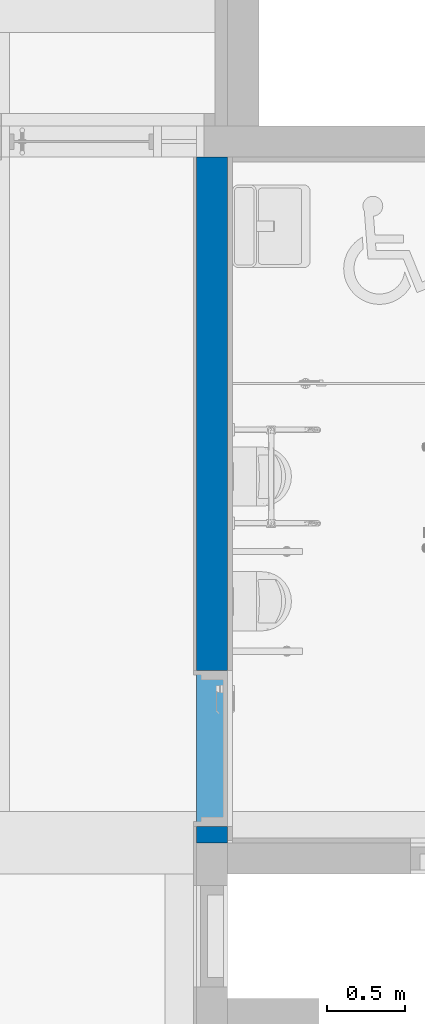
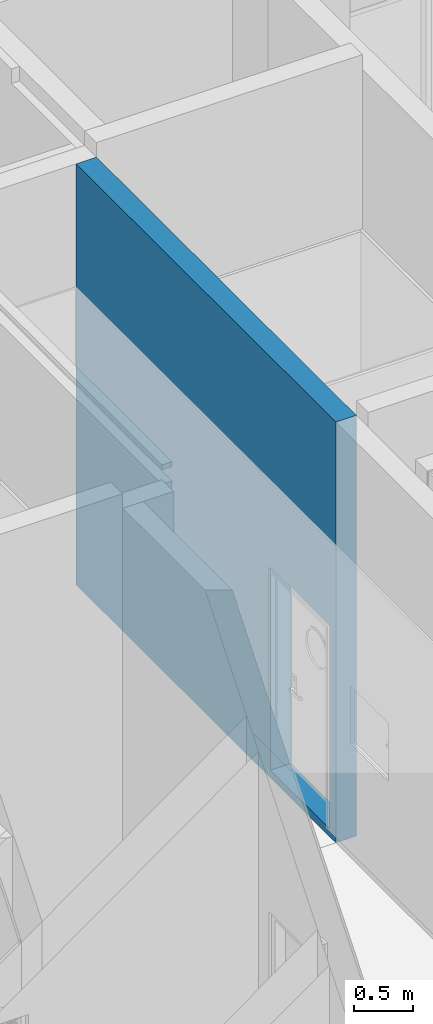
# One storey, part 60 of 74: 1 wall, 1 opening.
"""IFC2X3 building model written with IfcOpenShell, lengths in millimetres."""

from ifc_helpers import new_model, entity, si_unit, converted_unit, derived_unit, direction, frame, frame_2d, origin, place, context, subcontext, project, spatial, polyline, rectangle, extrude, clip, bounded_halfspace, material, layer, layer_set, layer_usage, type_object, element, save


model = new_model("IFC2X3")

# Units and contexts
model_context = context("Model", 3, precision=0.01, world=origin(), true_north=direction((6.123031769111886e-17, 1.0)))
body_context = subcontext(model_context, "Body", "Model", "MODEL_VIEW")
ifc_project = project(units=[si_unit("LENGTHUNIT", "METRE", prefix="MILLI"), si_unit("AREAUNIT", "SQUARE_METRE"), si_unit("VOLUMEUNIT", "CUBIC_METRE"), converted_unit("PLANEANGLEUNIT", "DEGREE", entity("IfcRatioMeasure", 0.017453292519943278), si_unit("PLANEANGLEUNIT", "RADIAN"), dimensions=[0, 0, 0, 0, 0, 0, 0]), si_unit("MASSUNIT", "GRAM", prefix="KILO"), derived_unit("MASSDENSITYUNIT", [(si_unit("MASSUNIT", "GRAM", prefix="KILO"), 1), (si_unit("LENGTHUNIT", "METRE"), -3)]), derived_unit("MOMENTOFINERTIAUNIT", [(si_unit("LENGTHUNIT", "METRE"), 4)]), si_unit("TIMEUNIT", "SECOND"), si_unit("FREQUENCYUNIT", "HERTZ"), si_unit("THERMODYNAMICTEMPERATUREUNIT", "DEGREE_CELSIUS"), derived_unit("THERMALTRANSMITTANCEUNIT", [(si_unit("MASSUNIT", "GRAM", prefix="KILO"), 1), (si_unit("THERMODYNAMICTEMPERATUREUNIT", "KELVIN"), -1), (si_unit("TIMEUNIT", "SECOND"), -3)]), derived_unit("VOLUMETRICFLOWRATEUNIT", [(si_unit("LENGTHUNIT", "METRE"), 3), (si_unit("TIMEUNIT", "SECOND"), -1)]), derived_unit("MASSFLOWRATEUNIT", [(si_unit("MASSUNIT", "GRAM", prefix="KILO"), 1), (si_unit("TIMEUNIT", "SECOND"), -1)]), derived_unit("ROTATIONALFREQUENCYUNIT", [(si_unit("TIMEUNIT", "SECOND"), -1)]), si_unit("ELECTRICCURRENTUNIT", "AMPERE"), si_unit("ELECTRICVOLTAGEUNIT", "VOLT"), si_unit("POWERUNIT", "WATT"), si_unit("FORCEUNIT", "NEWTON", prefix="KILO"), si_unit("ILLUMINANCEUNIT", "LUX"), si_unit("LUMINOUSFLUXUNIT", "LUMEN"), si_unit("LUMINOUSINTENSITYUNIT", "CANDELA"), derived_unit("USERDEFINED", [(si_unit("MASSUNIT", "GRAM", prefix="KILO"), -1), (si_unit("LENGTHUNIT", "METRE"), -2), (si_unit("TIMEUNIT", "SECOND"), 3), (si_unit("LUMINOUSFLUXUNIT", "LUMEN"), 1)]), derived_unit("SOUNDPOWERUNIT", [(si_unit("MASSUNIT", "GRAM", prefix="KILO"), 1), (si_unit("LENGTHUNIT", "METRE"), 2), (si_unit("TIMEUNIT", "SECOND"), -3)]), derived_unit("SOUNDPRESSUREUNIT", [(si_unit("MASSUNIT", "GRAM", prefix="KILO"), 1), (si_unit("LENGTHUNIT", "METRE"), -1), (si_unit("TIMEUNIT", "SECOND"), -2)]), derived_unit("LINEARVELOCITYUNIT", [(si_unit("LENGTHUNIT", "METRE"), 1), (si_unit("TIMEUNIT", "SECOND"), -1)]), si_unit("PRESSUREUNIT", "PASCAL"), derived_unit("USERDEFINED", [(si_unit("LENGTHUNIT", "METRE"), -2), (si_unit("MASSUNIT", "GRAM", prefix="KILO"), 1), (si_unit("TIMEUNIT", "SECOND"), -2)]), derived_unit("LINEARFORCEUNIT", [(si_unit("MASSUNIT", "GRAM", prefix="KILO"), 1), (si_unit("LENGTHUNIT", "METRE"), 1), (si_unit("TIMEUNIT", "SECOND"), -2), (si_unit("LENGTHUNIT", "METRE"), -1)]), derived_unit("PLANARFORCEUNIT", [(si_unit("MASSUNIT", "GRAM", prefix="KILO"), 1), (si_unit("LENGTHUNIT", "METRE"), 1), (si_unit("TIMEUNIT", "SECOND"), -2), (si_unit("LENGTHUNIT", "METRE"), -2)])], contexts=[model_context])

# Site, building, storey
site_placement = place(None, frame((-14167.972527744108, -657.2125860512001, 0.0)))
site = spatial("IfcSite", under=ifc_project, at=site_placement, Name="Default", CompositionType="ELEMENT")
building_placement = place(site_placement, origin())
building = spatial("IfcBuilding", under=site, at=building_placement, Name="Sample Building", CompositionType="ELEMENT")
storey_placement = place(building_placement, frame((0.0, 0.0, 4800.0)))
storey = spatial("IfcBuildingStorey", under=building, at=storey_placement, Name="지상 2층", CompositionType="ELEMENT", Elevation=4800.000000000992)

# Wall, opening
ifc_material = material(Name="KBIMS-콘크리트")
ifc_layer = layer(ifc_material, 200.0)
ifc_layer_set = layer_set([ifc_layer], Name="기본 벽:WA111-철근콘크리트구조 벽 200mm_CW1")
ifc_layer_usage = layer_usage(ifc_layer_set, "AXIS2", "NEGATIVE", 100.0)
wall_type = type_object("IfcWallType", Name="기본 벽:WA111-철근콘크리트구조 벽 200mm_CW1", PredefinedType="STANDARD", material=ifc_layer_set)
wall_placement = place(storey_placement, frame((38067.96379814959, 22457.212298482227, -1.9340006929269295e-09), z_axis=(0.0, 0.0, 1.0), x_axis=(0.0, 1.0, 0.0)))
wall = element("IfcWallStandardCase", 1, at=wall_placement, inside=storey, type_object=wall_type, material=ifc_layer_usage, Name="기본 벽:WA111-철근콘크리트구조 벽 200mm_CW1", ObjectType="기본 벽:WA111-철근콘크리트구조 벽 200mm_CW1", context=body_context, shape_type="Clipping", body=[
    clip(extrude(rectangle(XDim=4399.999996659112, YDim=199.99999999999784, at=frame_2d((2199.999998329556, 0.0), x_axis=(-1.0, 0.0))), origin(), (0.0, 0.0, 1.0), 4350.000000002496), bounded_halfspace(frame((0.0, -100.0, 4350.0), z_axis=(0.0, 0.0, -1.0), x_axis=(0.0, -1.0, 0.0)), True, frame((0.0, -100.0, 4350.0), z_axis=(0.0, 0.0, -1.0), x_axis=(0.0, -1.0, 0.0)), polyline([(0.0, 0.0), (-60960.0, 0.0), (-60960.0, -60959.94360369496), (-60960.0, -1341120.0), (0.0, -1341120.0), (0.0, 0.0)]))),
])
opening_placement = place(wall_placement, frame((1106.4605196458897, 100.0, 80.0)))
element("IfcOpeningElement", 2, at=opening_placement, cuts=wall, Name="DR111-외여닫이문(철재,일반)_유리포함(원형):DR111-외여닫이문(철재, 일반)_유리포함 (원형)_2100x1000:1", ObjectType="Opening", context=body_context, shape_type="SweptSolid", body=[
    extrude(rectangle(XDim=2099.999999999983, YDim=999.9999999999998, at=frame_2d((1049.9999999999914, 499.9999999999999), x_axis=(1.0, 0.0))), frame((0.0, 0.0, 0.0), z_axis=(0.0, -1.0, 0.0), x_axis=(0.0, 0.0, 1.0)), (0.0, 0.0, 1.0), 200.0),
])

save(model, "model.ifc")
